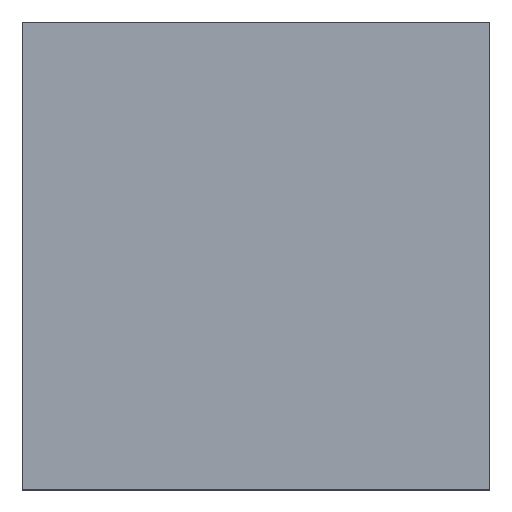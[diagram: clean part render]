
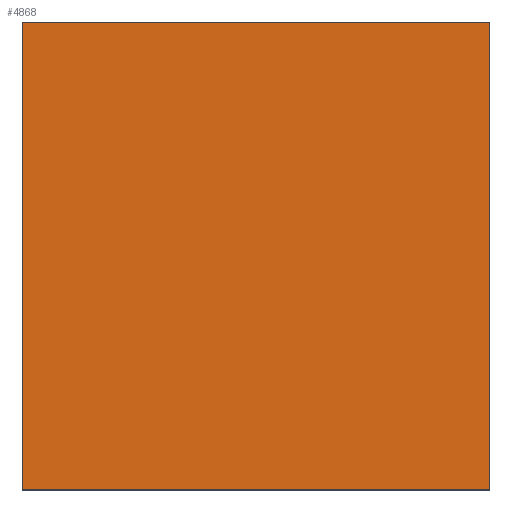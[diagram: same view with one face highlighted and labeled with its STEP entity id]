
A CAD part, top view. The second image highlights one B-rep face of the part: STEP entity #4868.
In plain terms, the highlighted planar face has unit normal (0, 0, 1) as drawn and (0, 1, 0) by its records, which use the part's own axes.
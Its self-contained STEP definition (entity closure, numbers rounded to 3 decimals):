
#1299=DIRECTION('',(0.,0.,1.));
#1300=VECTOR('',#1299,3.);
#1301=CARTESIAN_POINT('',(-1.5,1.175,-1.5));
#1302=LINE('',#1301,#1300);
#1306=DIRECTION('',(-1.,0.,0.));
#1307=VECTOR('',#1306,3.);
#1308=CARTESIAN_POINT('',(1.5,1.175,-1.5));
#1309=LINE('',#1308,#1307);
#1313=DIRECTION('',(0.,0.,-1.));
#1314=VECTOR('',#1313,3.);
#1315=CARTESIAN_POINT('',(1.5,1.175,1.5));
#1316=LINE('',#1315,#1314);
#1320=DIRECTION('',(1.,0.,0.));
#1321=VECTOR('',#1320,3.);
#1322=CARTESIAN_POINT('',(-1.5,1.175,1.5));
#1323=LINE('',#1322,#1321);
#3673=CARTESIAN_POINT('',(-1.5,1.175,-1.5));
#3674=CARTESIAN_POINT('',(-1.5,1.175,1.5));
#3675=VERTEX_POINT('',#3673);
#3676=VERTEX_POINT('',#3674);
#3677=CARTESIAN_POINT('',(1.5,1.175,1.5));
#3678=VERTEX_POINT('',#3677);
#3679=CARTESIAN_POINT('',(1.5,1.175,-1.5));
#3680=VERTEX_POINT('',#3679);
#4857=CARTESIAN_POINT('',(0.,1.175,0.));
#4858=DIRECTION('',(0.,1.,0.));
#4859=DIRECTION('',(1.,0.,0.));
#4860=AXIS2_PLACEMENT_3D('',#4857,#4858,#4859);
#4861=PLANE('',#4860);
#4862=ORIENTED_EDGE('',*,*,#4569,.F.);
#4863=ORIENTED_EDGE('',*,*,#4644,.F.);
#4864=ORIENTED_EDGE('',*,*,#4718,.F.);
#4865=ORIENTED_EDGE('',*,*,#4791,.F.);
#4866=EDGE_LOOP('',(#4862,#4863,#4864,#4865));
#4867=FACE_OUTER_BOUND('',#4866,.F.);
#4868=ADVANCED_FACE('',(#4867),#4861,.T.);
#4569=EDGE_CURVE('',#3675,#3676,#1302,.T.);
#4644=EDGE_CURVE('',#3680,#3675,#1309,.T.);
#4718=EDGE_CURVE('',#3678,#3680,#1316,.T.);
#4791=EDGE_CURVE('',#3676,#3678,#1323,.T.);
